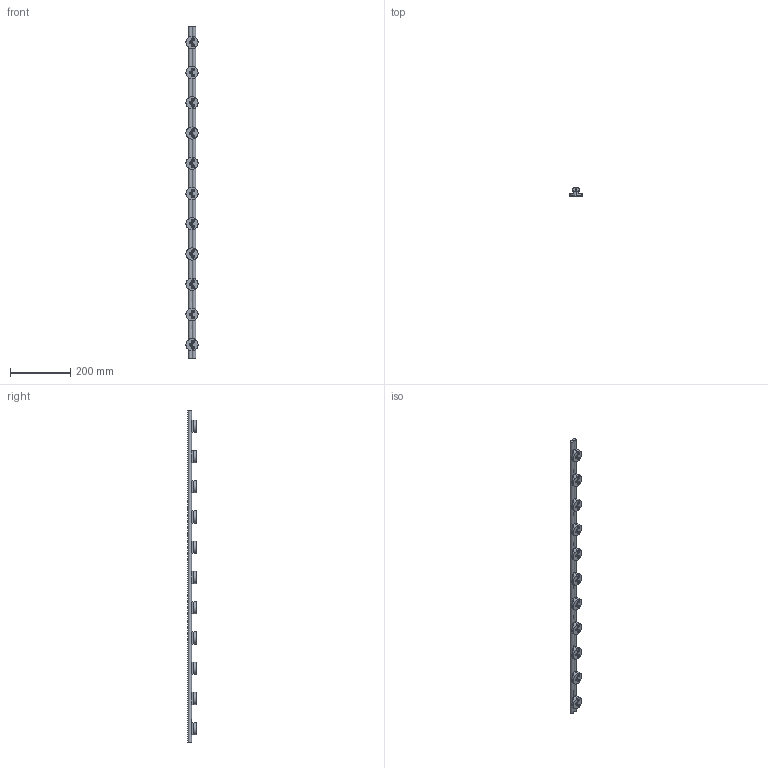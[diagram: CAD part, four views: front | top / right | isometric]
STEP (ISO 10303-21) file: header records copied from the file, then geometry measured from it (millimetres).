
FILE_DESCRIPTION (( 'STEP AP214' ), '1' );
FILE_NAME ('LF 1_-_LF 1 1098 mm lang.step', '2005-06-03T05:53:50', ( ' ' ), ( ' ' ), 'SwSTEP 2.0', 'SolidWorks 2004231', '' );
FILE_SCHEMA (( 'AUTOMOTIVE_DESIGN' ));
Length unit declared in the file: millimetre
Products named in the file (1): LF 1_-_LF 1  1098 mm lang
Bounding box: 40 x 27 x 1098 mm (x, y, z)
Volume: 398596.7 mm3; surface area: 139106.3 mm2
Topology: 1 solids, 1 shells, 1228 faces, 3040 edges, 1836 vertices
Faces by surface type: plane 576, cylinder 476, cone 110, torus 66
Entity records: 37526 total; most frequent: CARTESIAN_POINT 10336, ORIENTED_EDGE 5860, DIRECTION 5273, EDGE_CURVE 2930, AXIS2_PLACEMENT_3D 1873, VERTEX_POINT 1836, LINE 1527, VECTOR 1527
